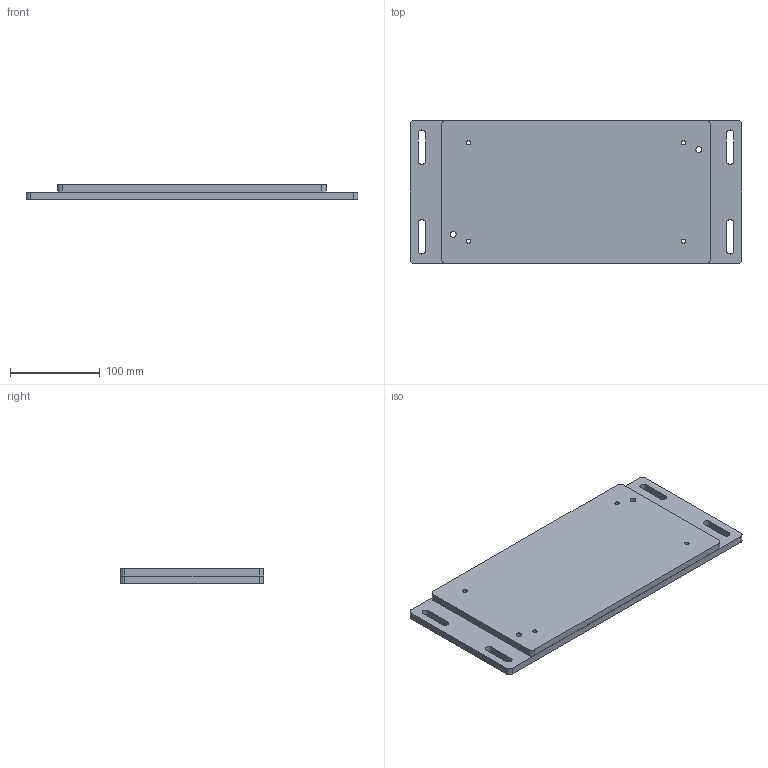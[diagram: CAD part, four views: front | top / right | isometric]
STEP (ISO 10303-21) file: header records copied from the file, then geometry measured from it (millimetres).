
FILE_DESCRIPTION(/* description */ ('Alibre Inc.'),/* implementation_level */ '2;1');
FILE_NAME(/* name */ 'export1',/* time_stamp */ '2015-11-10T14:52:48+01:00',/* author */ (''),/* organization */ (''),/* preprocessor_version */ 'ST-DEVELOPER v14',/* originating_system */ 'Alibre',/* authorisation */ '');
FILE_SCHEMA (('CONFIG_CONTROL_DESIGN'));
Length unit declared in the file: centimetre
Products named in the file (5): ID_1; ID_2; ID_3; ID_4
Bounding box: 370 x 160 x 16 mm (x, y, z)
Volume: 835046.2 mm3; surface area: 235107.7 mm2
Topology: 3 solids, 3 shells, 80 faces, 210 edges, 140 vertices
Faces by surface type: cylinder 54, plane 26
Full cylindrical faces by diameter (mm): 4.917 x8, 6.5 x2, 6.647 x8, 23 x2, 30 x1, 30.1 x1
Entity records: 2997 total; most frequent: DIRECTION 446, CARTESIAN_POINT 416, ORIENTED_EDGE 376, AXIS2_PLACEMENT_3D 196, EDGE_CURVE 188, EDGE_LOOP 156, FACE_BOUND 156, VERTEX_POINT 140
